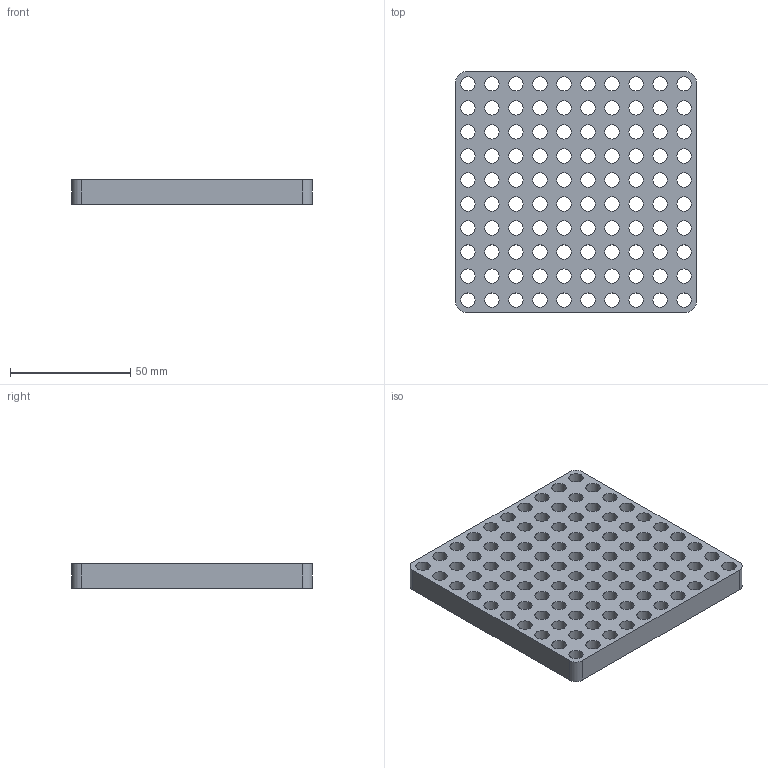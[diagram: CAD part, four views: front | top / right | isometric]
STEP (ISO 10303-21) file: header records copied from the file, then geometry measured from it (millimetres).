
FILE_DESCRIPTION(('step-conformance generated part'),'2;1');
FILE_NAME('plate_100_holes.step','2026-10-12T00:00:00',(''),(''),'step-conformance generate','step-conformance generate','');
FILE_SCHEMA(('AUTOMOTIVE_DESIGN { 1 0 10303 214 1 1 1 1 }'));
Length unit declared in the file: millimetre
Products named in the file (1): plate_100_holes
Bounding box: 100 x 100 x 10 mm (x, y, z)
Volume: 71588.3 mm3; surface area: 37098.5 mm2
Topology: 1 solids, 1 shells, 110 faces, 324 edges, 216 vertices
Faces by surface type: cylinder 104, plane 6
Full cylindrical faces by diameter (mm): 6 x100
Entity records: 4205 total; most frequent: DIRECTION 754, CARTESIAN_POINT 651, ORIENTED_EDGE 648, EDGE_CURVE 324, AXIS2_PLACEMENT_3D 319, EDGE_LOOP 310, VERTEX_POINT 216, CIRCLE 208
